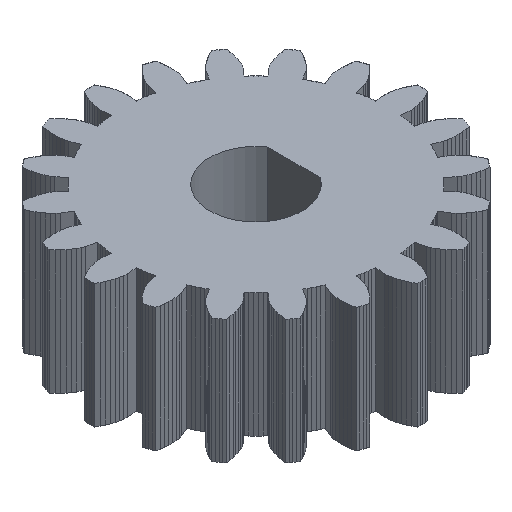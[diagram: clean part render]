
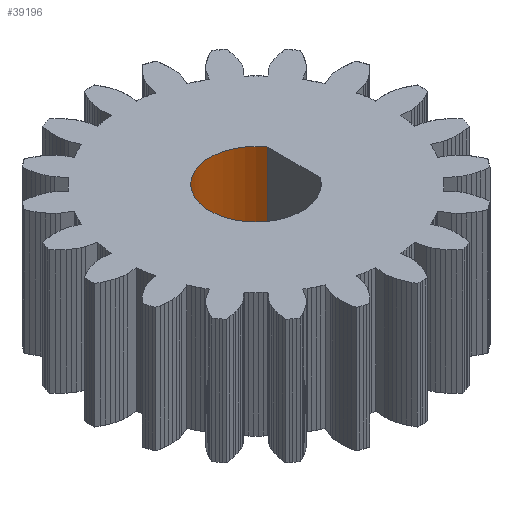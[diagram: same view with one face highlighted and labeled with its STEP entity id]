
A CAD part, isometric view. The second image highlights one B-rep face of the part: STEP entity #39196.
In plain terms, the highlighted cylindrical face has radius 3.05 mm (diameter 6.1 mm), a partial arc.
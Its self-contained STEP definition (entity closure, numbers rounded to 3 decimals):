
#72 = PLANE('',#73);
#73 = AXIS2_PLACEMENT_3D('',#74,#75,#76);
#74 = CARTESIAN_POINT('',(0.,0.,-23.4)
  );
#75 = DIRECTION('',(0.,0.,1.));
#76 = DIRECTION('',(1.,0.,-0.));
#126 = PLANE('',#127);
#127 = AXIS2_PLACEMENT_3D('',#128,#129,#130);
#128 = CARTESIAN_POINT('',(0.,0.,-31.6)
  );
#129 = DIRECTION('',(0.,0.,1.));
#130 = DIRECTION('',(1.,0.,-0.));
#14203 = VERTEX_POINT('',#14204);
#14204 = CARTESIAN_POINT('',(2.5,1.747,-31.6));
#14205 = VERTEX_POINT('',#14206);
#14206 = CARTESIAN_POINT('',(2.5,-1.747,-31.6));
#14220 = PLANE('',#14221);
#14221 = AXIS2_PLACEMENT_3D('',#14222,#14223,#14224);
#14222 = CARTESIAN_POINT('',(2.5,-6.1,-40.3));
#14223 = DIRECTION('',(-1.,0.,0.));
#14224 = DIRECTION('',(0.,1.,0.));
#14232 = EDGE_CURVE('',#14205,#14203,#14233,.T.);
#14233 = SURFACE_CURVE('',#14234,(#14239,#14250),.PCURVE_S1.);
#14234 = CIRCLE('',#14235,3.05);
#14235 = AXIS2_PLACEMENT_3D('',#14236,#14237,#14238);
#14236 = CARTESIAN_POINT('',(0.,0.,-31.6));
#14237 = DIRECTION('',(0.,0.,-1.));
#14238 = DIRECTION('',(1.,0.,0.));
#14239 = PCURVE('',#126,#14240);
#14240 = DEFINITIONAL_REPRESENTATION('',(#14241),#14249);
#14241 = ( BOUNDED_CURVE() B_SPLINE_CURVE(2,(#14242,#14243,#14244,#14245
    ,#14246,#14247,#14248),.UNSPECIFIED.,.T.,.F.) 
B_SPLINE_CURVE_WITH_KNOTS((1,2,2,2,2,1),(-2.094,0.,
    2.094,4.189,6.283,8.378),
.UNSPECIFIED.) CURVE() GEOMETRIC_REPRESENTATION_ITEM() 
RATIONAL_B_SPLINE_CURVE((1.,0.5,1.,0.5,1.,0.5,1.)) REPRESENTATION_ITEM(
  '') );
#14242 = CARTESIAN_POINT('',(3.05,0.));
#14243 = CARTESIAN_POINT('',(3.05,-5.283));
#14244 = CARTESIAN_POINT('',(-1.525,-2.641));
#14245 = CARTESIAN_POINT('',(-6.1,0.));
#14246 = CARTESIAN_POINT('',(-1.525,2.641));
#14247 = CARTESIAN_POINT('',(3.05,5.283));
#14248 = CARTESIAN_POINT('',(3.05,0.));
#14249 = ( GEOMETRIC_REPRESENTATION_CONTEXT(2) 
PARAMETRIC_REPRESENTATION_CONTEXT() REPRESENTATION_CONTEXT('2D SPACE',''
  ) );
#14250 = PCURVE('',#14251,#14256);
#14251 = CYLINDRICAL_SURFACE('',#14252,3.05);
#14252 = AXIS2_PLACEMENT_3D('',#14253,#14254,#14255);
#14253 = CARTESIAN_POINT('',(0.,0.,-32.1));
#14254 = DIRECTION('',(-0.,-0.,-1.));
#14255 = DIRECTION('',(1.,0.,0.));
#14256 = DEFINITIONAL_REPRESENTATION('',(#14257),#14261);
#14257 = LINE('',#14258,#14259);
#14258 = CARTESIAN_POINT('',(-6.283,-0.5));
#14259 = VECTOR('',#14260,1.);
#14260 = DIRECTION('',(1.,-0.));
#14261 = ( GEOMETRIC_REPRESENTATION_CONTEXT(2) 
PARAMETRIC_REPRESENTATION_CONTEXT() REPRESENTATION_CONTEXT('2D SPACE',''
  ) );
#25701 = VERTEX_POINT('',#25702);
#25702 = CARTESIAN_POINT('',(2.5,1.747,-23.4));
#25703 = VERTEX_POINT('',#25704);
#25704 = CARTESIAN_POINT('',(2.5,-1.747,-23.4));
#25725 = EDGE_CURVE('',#25703,#25701,#25726,.T.);
#25726 = SURFACE_CURVE('',#25727,(#25732,#25743),.PCURVE_S1.);
#25727 = CIRCLE('',#25728,3.05);
#25728 = AXIS2_PLACEMENT_3D('',#25729,#25730,#25731);
#25729 = CARTESIAN_POINT('',(0.,0.,-23.4));
#25730 = DIRECTION('',(0.,0.,-1.));
#25731 = DIRECTION('',(1.,0.,0.));
#25732 = PCURVE('',#72,#25733);
#25733 = DEFINITIONAL_REPRESENTATION('',(#25734),#25742);
#25734 = ( BOUNDED_CURVE() B_SPLINE_CURVE(2,(#25735,#25736,#25737,#25738
    ,#25739,#25740,#25741),.UNSPECIFIED.,.T.,.F.) 
B_SPLINE_CURVE_WITH_KNOTS((1,2,2,2,2,1),(-2.094,0.,
    2.094,4.189,6.283,8.378),
.UNSPECIFIED.) CURVE() GEOMETRIC_REPRESENTATION_ITEM() 
RATIONAL_B_SPLINE_CURVE((1.,0.5,1.,0.5,1.,0.5,1.)) REPRESENTATION_ITEM(
  '') );
#25735 = CARTESIAN_POINT('',(3.05,0.));
#25736 = CARTESIAN_POINT('',(3.05,-5.283));
#25737 = CARTESIAN_POINT('',(-1.525,-2.641));
#25738 = CARTESIAN_POINT('',(-6.1,0.));
#25739 = CARTESIAN_POINT('',(-1.525,2.641));
#25740 = CARTESIAN_POINT('',(3.05,5.283));
#25741 = CARTESIAN_POINT('',(3.05,0.));
#25742 = ( GEOMETRIC_REPRESENTATION_CONTEXT(2) 
PARAMETRIC_REPRESENTATION_CONTEXT() REPRESENTATION_CONTEXT('2D SPACE',''
  ) );
#25743 = PCURVE('',#14251,#25744);
#25744 = DEFINITIONAL_REPRESENTATION('',(#25745),#25749);
#25745 = LINE('',#25746,#25747);
#25746 = CARTESIAN_POINT('',(-6.283,-8.7));
#25747 = VECTOR('',#25748,1.);
#25748 = DIRECTION('',(1.,-0.));
#25749 = ( GEOMETRIC_REPRESENTATION_CONTEXT(2) 
PARAMETRIC_REPRESENTATION_CONTEXT() REPRESENTATION_CONTEXT('2D SPACE',''
  ) );
#39153 = EDGE_CURVE('',#25703,#14205,#39154,.T.);
#39154 = SURFACE_CURVE('',#39155,(#39159,#39166),.PCURVE_S1.);
#39155 = LINE('',#39156,#39157);
#39156 = CARTESIAN_POINT('',(2.5,-1.747,-32.1));
#39157 = VECTOR('',#39158,1.);
#39158 = DIRECTION('',(-0.,-0.,-1.));
#39159 = PCURVE('',#14220,#39160);
#39160 = DEFINITIONAL_REPRESENTATION('',(#39161),#39165);
#39161 = LINE('',#39162,#39163);
#39162 = CARTESIAN_POINT('',(4.353,-8.2));
#39163 = VECTOR('',#39164,1.);
#39164 = DIRECTION('',(0.,1.));
#39165 = ( GEOMETRIC_REPRESENTATION_CONTEXT(2) 
PARAMETRIC_REPRESENTATION_CONTEXT() REPRESENTATION_CONTEXT('2D SPACE',''
  ) );
#39166 = PCURVE('',#14251,#39167);
#39167 = DEFINITIONAL_REPRESENTATION('',(#39168),#39172);
#39168 = LINE('',#39169,#39170);
#39169 = CARTESIAN_POINT('',(-5.673,0.));
#39170 = VECTOR('',#39171,1.);
#39171 = DIRECTION('',(-0.,1.));
#39172 = ( GEOMETRIC_REPRESENTATION_CONTEXT(2) 
PARAMETRIC_REPRESENTATION_CONTEXT() REPRESENTATION_CONTEXT('2D SPACE',''
  ) );
#39175 = EDGE_CURVE('',#25701,#14203,#39176,.T.);
#39176 = SURFACE_CURVE('',#39177,(#39181,#39188),.PCURVE_S1.);
#39177 = LINE('',#39178,#39179);
#39178 = CARTESIAN_POINT('',(2.5,1.747,-32.1));
#39179 = VECTOR('',#39180,1.);
#39180 = DIRECTION('',(-0.,-0.,-1.));
#39181 = PCURVE('',#14220,#39182);
#39182 = DEFINITIONAL_REPRESENTATION('',(#39183),#39187);
#39183 = LINE('',#39184,#39185);
#39184 = CARTESIAN_POINT('',(7.847,-8.2));
#39185 = VECTOR('',#39186,1.);
#39186 = DIRECTION('',(0.,1.));
#39187 = ( GEOMETRIC_REPRESENTATION_CONTEXT(2) 
PARAMETRIC_REPRESENTATION_CONTEXT() REPRESENTATION_CONTEXT('2D SPACE',''
  ) );
#39188 = PCURVE('',#14251,#39189);
#39189 = DEFINITIONAL_REPRESENTATION('',(#39190),#39194);
#39190 = LINE('',#39191,#39192);
#39191 = CARTESIAN_POINT('',(-0.61,0.));
#39192 = VECTOR('',#39193,1.);
#39193 = DIRECTION('',(-0.,1.));
#39194 = ( GEOMETRIC_REPRESENTATION_CONTEXT(2) 
PARAMETRIC_REPRESENTATION_CONTEXT() REPRESENTATION_CONTEXT('2D SPACE',''
  ) );
#39196 = ADVANCED_FACE('',(#39197),#14251,.F.);
#39197 = FACE_BOUND('',#39198,.T.);
#39198 = EDGE_LOOP('',(#39199,#39200,#39201,#39202));
#39199 = ORIENTED_EDGE('',*,*,#14232,.T.);
#39200 = ORIENTED_EDGE('',*,*,#39175,.F.);
#39201 = ORIENTED_EDGE('',*,*,#25725,.F.);
#39202 = ORIENTED_EDGE('',*,*,#39153,.T.);
